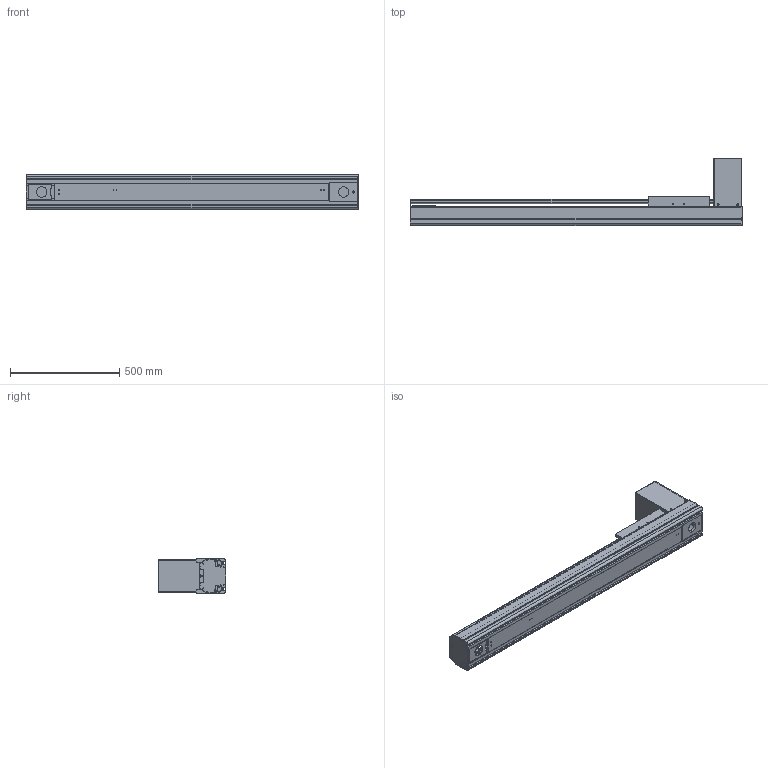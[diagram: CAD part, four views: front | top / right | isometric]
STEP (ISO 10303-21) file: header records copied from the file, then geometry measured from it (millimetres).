
FILE_DESCRIPTION((''),'2;1');
FILE_NAME('BE50G-BT-L19N-95_IGS_PRT','2017-06-18T',(' '),(''),'PRO/ENGINEER BY PARAMETRIC TECHNOLOGY CORPORATION, 2015030','PRO/ENGINEER BY PARAMETRIC TECHNOLOGY CORPORATION, 2015030','');
FILE_SCHEMA(('CONFIG_CONTROL_DESIGN'));
Products named in the file (1): BE50G-BT-L19N-95_IGS_PRT
Bounding box: 1520 x 309 x 160 mm (x, y, z)
Volume: 7791232.1 mm3; surface area: 2903364.4 mm2
Topology: 2 solids, 143 shells, 1897 faces, 5247 edges, 3460 vertices
Faces by surface type: cylinder 934, plane 788, cone 132, sphere 23, torus 20
Entity records: 62785 total; most frequent: CARTESIAN_POINT 13695, DIRECTION 10364, ORIENTED_EDGE 9826, EDGE_CURVE 5167, AXIS2_PLACEMENT_3D 3865, VERTEX_POINT 3457, VECTOR 2634, LINE 2634
